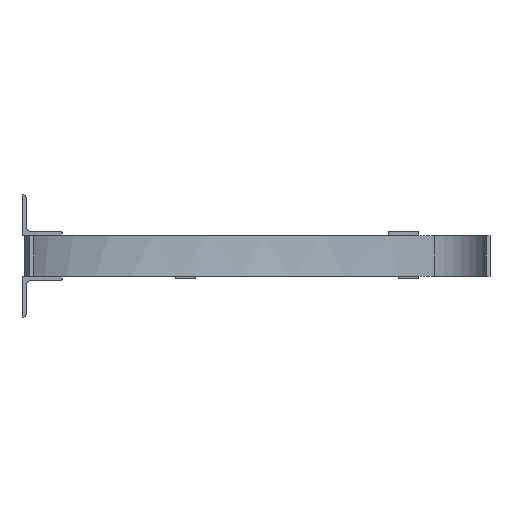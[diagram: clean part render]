
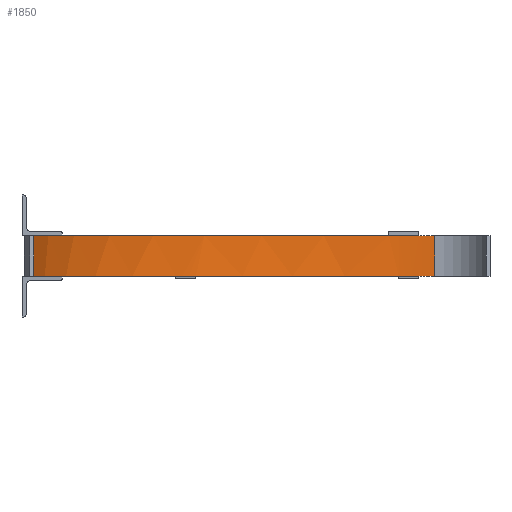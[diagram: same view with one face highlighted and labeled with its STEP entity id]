
A CAD part, left-side view. The second image highlights one B-rep face of the part: STEP entity #1850.
In plain terms, the highlighted cylindrical face has radius 1000 mm (diameter 2000 mm), a partial arc.
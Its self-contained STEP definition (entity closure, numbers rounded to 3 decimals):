
#160=LINE('',#3051,#314);
#161=LINE('',#3055,#315);
#314=VECTOR('',#2541,100.);
#315=VECTOR('',#2544,100.);
#517=FACE_OUTER_BOUND('',#649,.T.);
#649=EDGE_LOOP('',(#1560,#1561,#1562,#1563,#1564,#1565,#1566,#1567,#1568,
#1569,#1570,#1571));
#690=CIRCLE('',#1926,1000.);
#698=CIRCLE('',#1944,1000.);
#701=CIRCLE('',#1948,1000.);
#702=CIRCLE('',#1950,1000.);
#709=CIRCLE('',#1966,1000.);
#730=CIRCLE('',#2010,1000.);
#734=CIRCLE('',#2022,1000.);
#737=CIRCLE('',#2026,1000.);
#741=CIRCLE('',#2036,1000.);
#742=CIRCLE('',#2037,1000.);
#802=VERTEX_POINT('',#2747);
#803=VERTEX_POINT('',#2748);
#822=VERTEX_POINT('',#2807);
#825=VERTEX_POINT('',#2815);
#826=VERTEX_POINT('',#2819);
#841=VERTEX_POINT('',#2869);
#871=VERTEX_POINT('',#2975);
#872=VERTEX_POINT('',#2976);
#882=VERTEX_POINT('',#3011);
#885=VERTEX_POINT('',#3019);
#894=VERTEX_POINT('',#3052);
#895=VERTEX_POINT('',#3054);
#972=EDGE_CURVE('',#802,#803,#690,.T.);
#1002=EDGE_CURVE('',#803,#822,#698,.T.);
#1007=EDGE_CURVE('',#825,#802,#701,.T.);
#1008=EDGE_CURVE('',#826,#825,#702,.T.);
#1035=EDGE_CURVE('',#841,#826,#709,.T.);
#1087=EDGE_CURVE('',#871,#872,#730,.T.);
#1104=EDGE_CURVE('',#872,#882,#734,.T.);
#1109=EDGE_CURVE('',#885,#871,#737,.T.);
#1125=EDGE_CURVE('',#822,#885,#160,.T.);
#1126=EDGE_CURVE('',#894,#841,#741,.T.);
#1127=EDGE_CURVE('',#894,#895,#161,.T.);
#1128=EDGE_CURVE('',#882,#895,#742,.T.);
#1560=ORIENTED_EDGE('',*,*,#1125,.F.);
#1561=ORIENTED_EDGE('',*,*,#1002,.F.);
#1562=ORIENTED_EDGE('',*,*,#972,.F.);
#1563=ORIENTED_EDGE('',*,*,#1007,.F.);
#1564=ORIENTED_EDGE('',*,*,#1008,.F.);
#1565=ORIENTED_EDGE('',*,*,#1035,.F.);
#1566=ORIENTED_EDGE('',*,*,#1126,.F.);
#1567=ORIENTED_EDGE('',*,*,#1127,.T.);
#1568=ORIENTED_EDGE('',*,*,#1128,.F.);
#1569=ORIENTED_EDGE('',*,*,#1104,.F.);
#1570=ORIENTED_EDGE('',*,*,#1087,.F.);
#1571=ORIENTED_EDGE('',*,*,#1109,.F.);
#1651=CYLINDRICAL_SURFACE('',#2035,1000.);
#1850=ADVANCED_FACE('',(#517),#1651,.F.);
#1926=AXIS2_PLACEMENT_3D('',#2749,#2219,#2220);
#1944=AXIS2_PLACEMENT_3D('',#2808,#2277,#2278);
#1948=AXIS2_PLACEMENT_3D('',#2817,#2287,#2288);
#1950=AXIS2_PLACEMENT_3D('',#2820,#2291,#2292);
#1966=AXIS2_PLACEMENT_3D('',#2871,#2343,#2344);
#2010=AXIS2_PLACEMENT_3D('',#2977,#2462,#2463);
#2022=AXIS2_PLACEMENT_3D('',#3012,#2499,#2500);
#2026=AXIS2_PLACEMENT_3D('',#3021,#2509,#2510);
#2035=AXIS2_PLACEMENT_3D('',#3050,#2539,#2540);
#2036=AXIS2_PLACEMENT_3D('',#3053,#2542,#2543);
#2037=AXIS2_PLACEMENT_3D('',#3056,#2545,#2546);
#2219=DIRECTION('center_axis',(0.,0.,
1.));
#2220=DIRECTION('ref_axis',(1.,0.012,0.));
#2277=DIRECTION('center_axis',(0.,0.,
1.));
#2278=DIRECTION('ref_axis',(1.,0.012,0.));
#2287=DIRECTION('center_axis',(0.,0.,
1.));
#2288=DIRECTION('ref_axis',(1.,0.012,0.));
#2291=DIRECTION('center_axis',(0.,0.,
1.));
#2292=DIRECTION('ref_axis',(1.,0.012,0.));
#2343=DIRECTION('center_axis',(0.,0.,
1.));
#2344=DIRECTION('ref_axis',(1.,0.012,0.));
#2462=DIRECTION('center_axis',(0.,0.,
-1.));
#2463=DIRECTION('ref_axis',(-0.012,1.,0.));
#2499=DIRECTION('center_axis',(0.,0.,
-1.));
#2500=DIRECTION('ref_axis',(-0.012,1.,0.));
#2509=DIRECTION('center_axis',(0.,0.,
-1.));
#2510=DIRECTION('ref_axis',(-0.012,1.,0.));
#2539=DIRECTION('center_axis',(0.,0.,
1.));
#2540=DIRECTION('ref_axis',(1.,0.012,0.));
#2541=DIRECTION('',(0.,0.,1.));
#2542=DIRECTION('center_axis',(0.,0.,
1.));
#2543=DIRECTION('ref_axis',(1.,-0.006,0.));
#2544=DIRECTION('',(0.,0.,1.));
#2545=DIRECTION('center_axis',(0.,0.,
-1.));
#2546=DIRECTION('ref_axis',(1.,0.012,0.));
#2747=CARTESIAN_POINT('',(566.009,-422.936,8.564));
#2748=CARTESIAN_POINT('',(527.482,-372.936,8.564));
#2749=CARTESIAN_POINT('Origin',(-244.983,-1007.994,8.564));
#2807=CARTESIAN_POINT('',(-256.539,-8.061,8.564));
#2808=CARTESIAN_POINT('Origin',(-244.983,-1007.994,8.564));
#2815=CARTESIAN_POINT('',(751.562,-924.936,8.564));
#2817=CARTESIAN_POINT('Origin',(-244.983,-1007.994,8.564));
#2819=CARTESIAN_POINT('',(754.471,-974.936,8.564));
#2820=CARTESIAN_POINT('Origin',(-244.983,-1007.994,8.564));
#2869=CARTESIAN_POINT('',(754.951,-996.424,8.564));
#2871=CARTESIAN_POINT('Origin',(-244.983,-1007.994,8.564));
#2975=CARTESIAN_POINT('',(749.162,-899.936,108.564));
#2976=CARTESIAN_POINT('',(754.471,-974.936,108.564));
#2977=CARTESIAN_POINT('Origin',(-244.983,-1007.994,108.564));
#3011=CARTESIAN_POINT('',(754.951,-996.424,108.564));
#3012=CARTESIAN_POINT('Origin',(-244.983,-1007.994,108.564));
#3019=CARTESIAN_POINT('',(-256.539,-8.061,108.564));
#3021=CARTESIAN_POINT('Origin',(-244.983,-1007.994,108.564));
#3050=CARTESIAN_POINT('Origin',(-244.983,-1007.994,58.564));
#3051=CARTESIAN_POINT('',(-256.539,-8.061,58.564));
#3052=CARTESIAN_POINT('',(755.,-1013.877,8.564));
#3053=CARTESIAN_POINT('Origin',(-244.983,-1007.994,8.564));
#3054=CARTESIAN_POINT('',(755.,-1013.877,108.564));
#3055=CARTESIAN_POINT('',(755.,-1013.877,58.564));
#3056=CARTESIAN_POINT('Origin',(-244.983,-1007.994,108.564));
